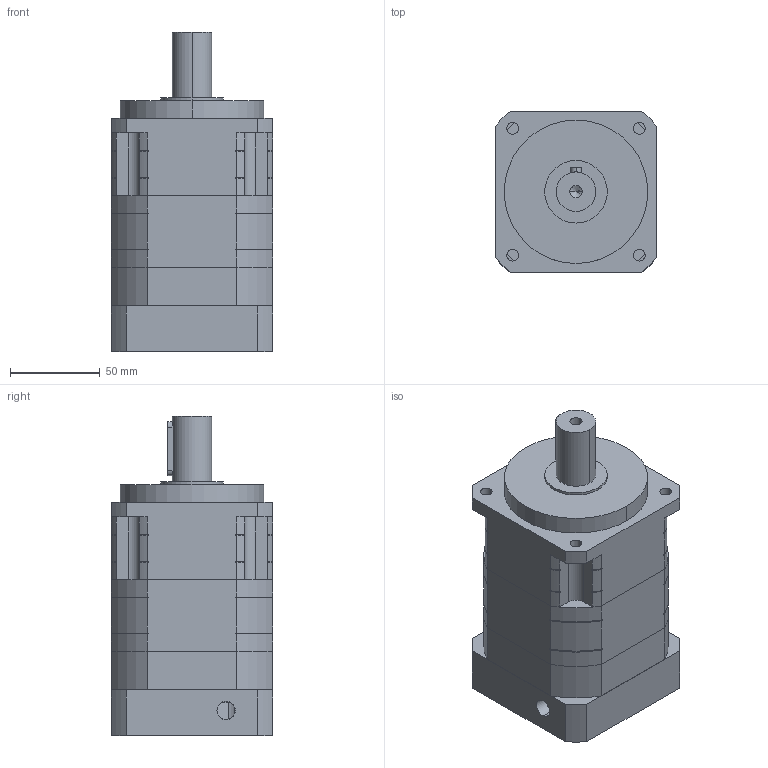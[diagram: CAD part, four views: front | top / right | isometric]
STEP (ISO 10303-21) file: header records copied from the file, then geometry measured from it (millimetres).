
FILE_DESCRIPTION (( 'STEP AP203' ), '1' );
FILE_NAME ('SG090L2.STEP', '2017-06-05T08:01:47', ( 'user1' ), ( '' ), 'SwSTEP 2.0', 'SolidWorks 2012', '' );
FILE_SCHEMA (( 'CONFIG_CONTROL_DESIGN' ));
Length unit declared in the file: millimetre
Products named in the file (6): SG090L2; 零件8^PG90L1; 複製 of 零件1^PG90L1; 零件3^PG90L1; 零件2^PG90L1; 零件1^PG90L1
Assembly tree (5 placements, depth 2):
  SG090L2
    零件1^PG90L1
    零件2^PG90L1
    零件3^PG90L1
    複製 of 零件1^PG90L1
    零件8^PG90L1
Bounding box: 90 x 90 x 178 mm (x, y, z)
Volume: 966597.4 mm3; surface area: 132121.9 mm2
Topology: 6 solids, 6 shells, 286 faces, 763 edges, 500 vertices
Faces by surface type: cylinder 160, plane 116, cone 10
Entity records: 9824 total; most frequent: CARTESIAN_POINT 1763, DIRECTION 1646, ORIENTED_EDGE 1506, EDGE_CURVE 753, AXIS2_PLACEMENT_3D 607, VERTEX_POINT 500, VECTOR 432, LINE 432
